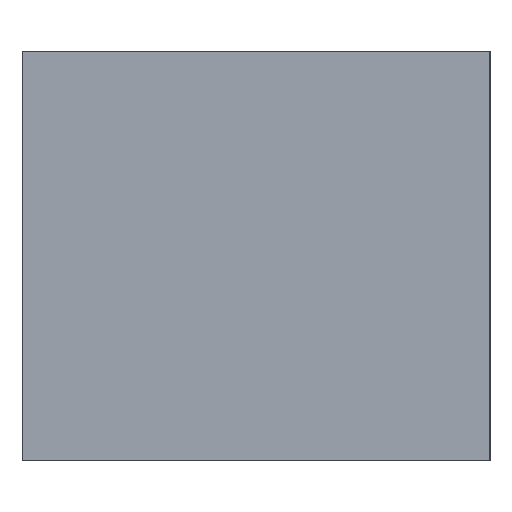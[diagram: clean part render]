
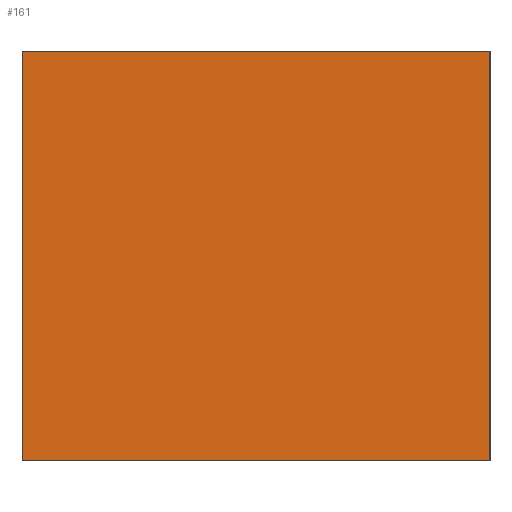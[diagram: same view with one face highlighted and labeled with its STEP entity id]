
A CAD part, front view. The second image highlights one B-rep face of the part: STEP entity #161.
In plain terms, the highlighted planar face has unit normal (0, -1, 0).
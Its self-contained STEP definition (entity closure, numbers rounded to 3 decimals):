
#161=ADVANCED_FACE('',(#271),#273,.T.);
#271=FACE_BOUND('',#272,.T.);
#272=EDGE_LOOP('',(#349,#350,#351,#352));
#273=PLANE('',#274);
#274=AXIS2_PLACEMENT_3D('',#275,#276,#277);
#275=CARTESIAN_POINT('',(-31.,-122.,0.));
#276=DIRECTION('',(0.,-1.,0.));
#277=DIRECTION('',(1.,0.,0.));
#349=ORIENTED_EDGE('',*,*,#359,.T.);
#350=ORIENTED_EDGE('',*,*,#391,.T.);
#351=ORIENTED_EDGE('',*,*,#370,.F.);
#352=ORIENTED_EDGE('',*,*,#392,.F.);
#359=EDGE_CURVE('',#398,#396,#399,.T.);
#370=EDGE_CURVE('',#418,#420,#421,.T.);
#391=EDGE_CURVE('',#396,#420,#451,.T.);
#392=EDGE_CURVE('',#398,#418,#452,.T.);
#396=VERTEX_POINT('',#458);
#398=VERTEX_POINT('',#462);
#399=LINE('',#463,#464);
#418=VERTEX_POINT('',#506);
#420=VERTEX_POINT('',#510);
#421=LINE('',#511,#512);
#451=LINE('',#587,#588);
#452=LINE('',#590,#591);
#458=CARTESIAN_POINT('',(1.,-122.,0.));
#462=CARTESIAN_POINT('',(-31.,-122.,0.));
#463=CARTESIAN_POINT('',(-31.,-122.,0.));
#464=VECTOR('',#465,1.);
#465=DIRECTION('',(1.,0.,0.));
#506=CARTESIAN_POINT('',(-31.,-122.,28.));
#510=CARTESIAN_POINT('',(1.,-122.,28.));
#511=CARTESIAN_POINT('',(-31.,-122.,28.));
#512=VECTOR('',#513,1.);
#513=DIRECTION('',(1.,0.,0.));
#587=CARTESIAN_POINT('',(1.,-122.,0.));
#588=VECTOR('',#589,1.);
#589=DIRECTION('',(0.,0.,1.));
#590=CARTESIAN_POINT('',(-31.,-122.,0.));
#591=VECTOR('',#592,1.);
#592=DIRECTION('',(0.,0.,1.));
